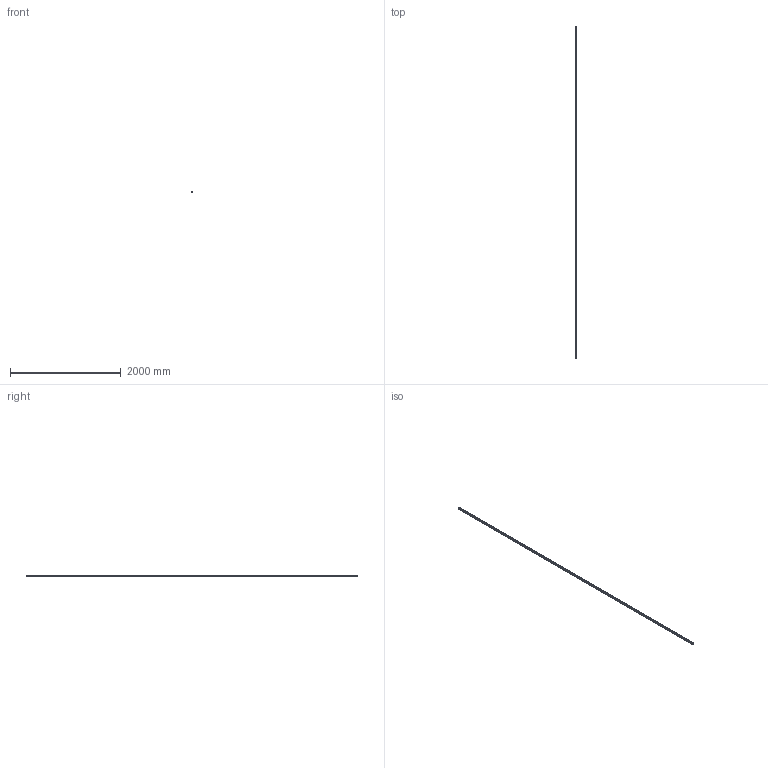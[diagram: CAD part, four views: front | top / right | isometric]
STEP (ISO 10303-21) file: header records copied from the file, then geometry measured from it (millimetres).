
FILE_DESCRIPTION (( 'STEP AP203' ), '1' );
FILE_NAME ('20204010_Profil 6 30x30L 1N.step', '2021-06-18T12:30:01', ( '' ), ( '' ), 'SwSTEP 2.0', 'SolidWorks 2021', '' );
FILE_SCHEMA (( 'CONFIG_CONTROL_DESIGN' ));
Length unit declared in the file: millimetre
Products named in the file (1): 20204010_Profil 6 30x30L 1N
Bounding box: 30 x 6000 x 30 mm (x, y, z)
Volume: 2047127.4 mm3; surface area: 2084693.8 mm2
Topology: 1 solids, 1 shells, 154 faces, 456 edges, 304 vertices
Faces by surface type: plane 78, cylinder 76
Entity records: 5293 total; most frequent: DIRECTION 918, CARTESIAN_POINT 915, ORIENTED_EDGE 912, EDGE_CURVE 456, AXIS2_PLACEMENT_3D 307, VERTEX_POINT 304, LINE 304, VECTOR 304
